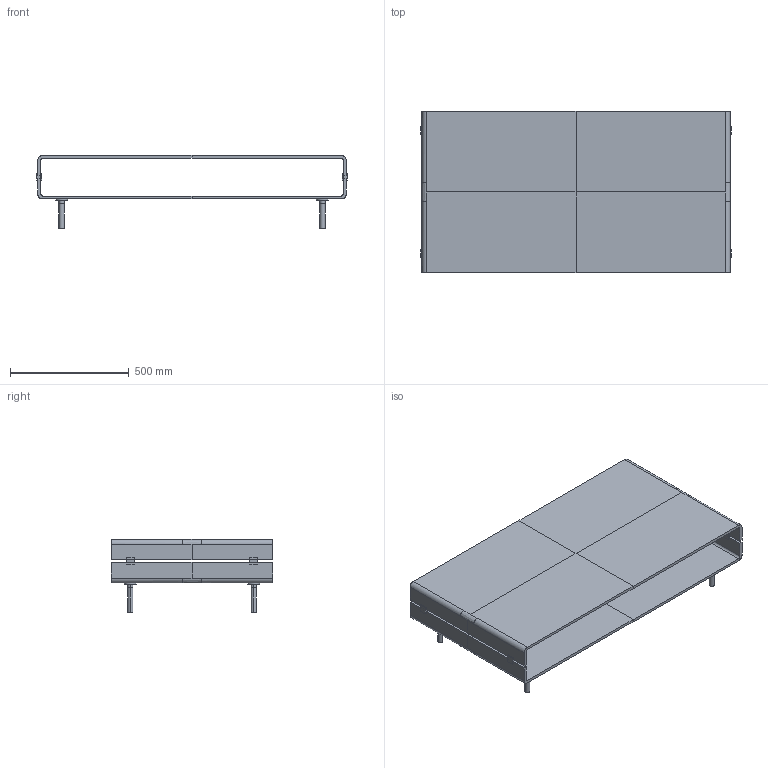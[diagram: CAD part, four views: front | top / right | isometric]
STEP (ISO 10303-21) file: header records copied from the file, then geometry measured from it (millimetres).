
FILE_DESCRIPTION(/* description */ (''),/* implementation_level */ '2;1');
FILE_NAME(/* name */ '203.330 - C&C 130x68 piedini',/* time_stamp */ '2010-11-04T09:56:12+01:00',/* author */ (''),/* organization */ (''),/* preprocessor_version */ 'ST-DEVELOPER v10',/* originating_system */ '',/* authorisation */ '');
FILE_SCHEMA (('CONFIG_CONTROL_DESIGN'));
Length unit declared in the file: centimetre
Products named in the file (1): 1
Bounding box: 1308 x 680 x 309 mm (x, y, z)
Volume: 23755690.2 mm3; surface area: 4102295 mm2
Topology: 14 solids, 14 shells, 214 faces, 522 edges, 336 vertices
Faces by surface type: plane 126, bspline 88
Entity records: 6182 total; most frequent: CARTESIAN_POINT 2744, ORIENTED_EDGE 1044, EDGE_CURVE 522, B_SPLINE_CURVE_WITH_KNOTS 382, VERTEX_POINT 336, EDGE_LOOP 218, ADVANCED_FACE 214, FACE_OUTER_BOUND 214
